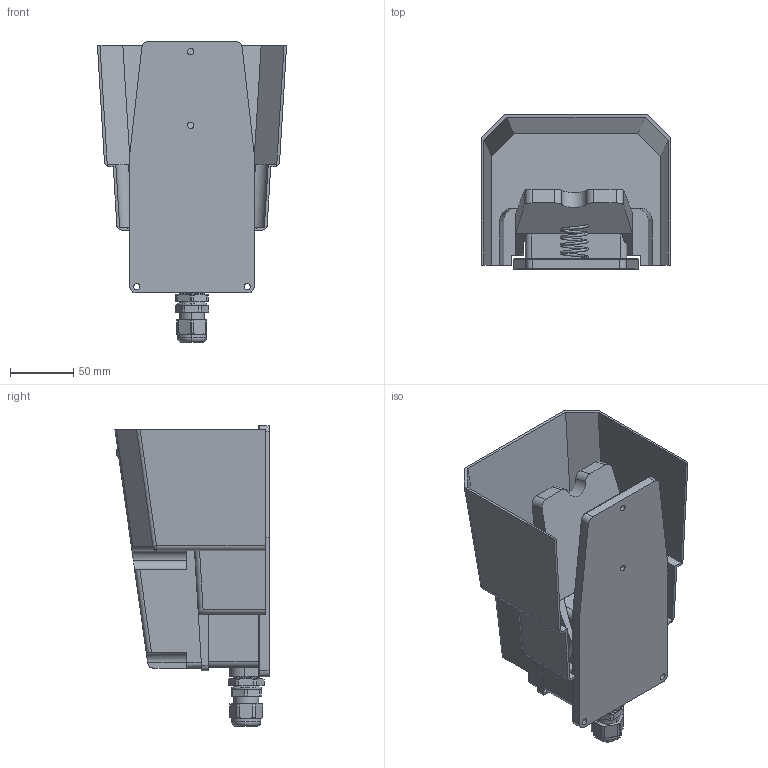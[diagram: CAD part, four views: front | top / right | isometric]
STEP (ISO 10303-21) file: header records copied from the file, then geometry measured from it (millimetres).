
FILE_DESCRIPTION(('FreeCAD Model'),'2;1');
FILE_NAME('Open CASCADE Shape Model','2022-10-20T16:16:15',( 'Engenharia Meltaltex'),('Engenharia Meltaltex'), 'Open CASCADE STEP processor 7.5','FreeCAD','Unknown');
FILE_SCHEMA(('AUTOMOTIVE_DESIGN { 1 0 10303 214 1 1 1 1 }'));
Length unit declared in the file: millimetre
Products named in the file (7): TFS-422; Body; Body001; Body002; Body003; Logo Pronto001; CH-PG13.5
Assembly tree (6 placements, depth 2):
  TFS-422
    Body
    Body001
    Body002
    Body003
    Logo Pronto001
    CH-PG13.5
Bounding box: 149 x 121.42 x 237 mm (x, y, z)
Volume: 701286.6 mm3; surface area: 231303.6 mm2
Topology: 12 solids, 12 shells, 465 faces, 1207 edges, 782 vertices
Faces by surface type: plane 186, cylinder 145, bspline 105, cone 15, torus 12, sphere 2
Full cylindrical faces by diameter (mm): 5 x12, 19 x1
Entity records: 15835 total; most frequent: CARTESIAN_POINT 4835, ORIENTED_EDGE 2406, DIRECTION 1956, EDGE_CURVE 1203, VERTEX_POINT 782, AXIS2_PLACEMENT_3D 675, LINE 606, VECTOR 606
